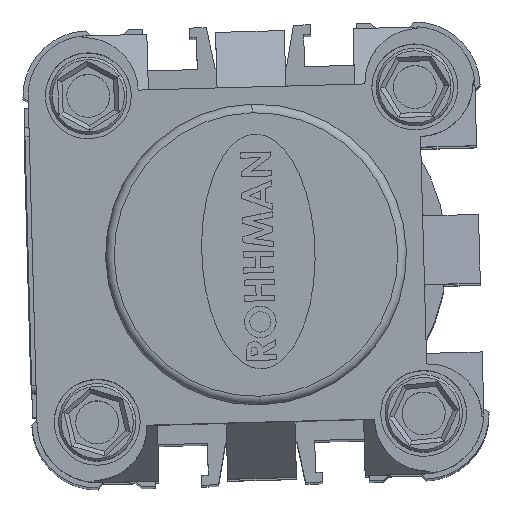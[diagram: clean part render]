
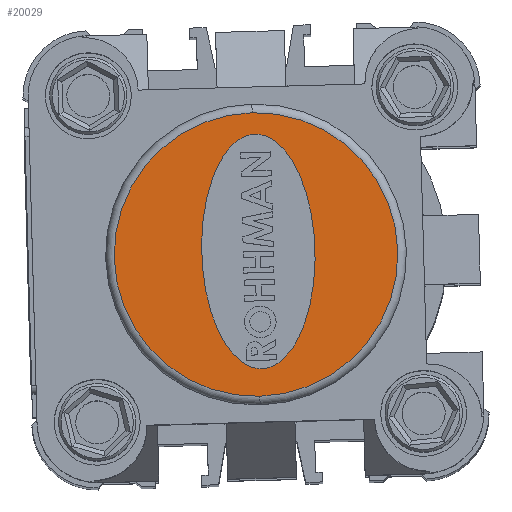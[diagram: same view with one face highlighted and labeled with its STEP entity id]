
A CAD part, top view. The second image highlights one B-rep face of the part: STEP entity #20029.
In plain terms, the highlighted planar face has unit normal (0, 0, 1) as drawn and (0, 0, -1) by its records, which use the part's own axes.
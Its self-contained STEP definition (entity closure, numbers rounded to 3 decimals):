
#99 = DIRECTION ( 'NONE',  ( 0., 0., -1. ) ) ;
#935 = VERTEX_POINT ( 'NONE', #8402 ) ;
#1579 = VERTEX_POINT ( 'NONE', #31861 ) ;
#1590 = FACE_BOUND ( 'NONE', #24347, .T. ) ;
#2034 = ORIENTED_EDGE ( 'NONE', *, *, #30570, .T. ) ;
#2451 = CARTESIAN_POINT ( 'NONE',  ( 39.297, 12.525, -4. ) ) ;
#2734 = CIRCLE ( 'NONE', #10693, 16.5 ) ;
#2842 = EDGE_CURVE ( 'NONE', #19634, #1579, #10938, .T. ) ;
#4099 = DIRECTION ( 'NONE',  ( -1., 0., 0. ) ) ;
#4481 = DIRECTION ( 'NONE',  ( 0., 0., -1. ) ) ;
#5569 = CARTESIAN_POINT ( 'NONE',  ( 26., 26., -4. ) ) ;
#7733 =( BOUNDED_CURVE ( )  B_SPLINE_CURVE ( 3, ( #19075, #11747, #29200, #9126 ),
 .UNSPECIFIED., .F., .F. ) 
 B_SPLINE_CURVE_WITH_KNOTS ( ( 4, 4 ),
 ( 3.142, 6.283 ),
 .UNSPECIFIED. ) 
 CURVE ( )  GEOMETRIC_REPRESENTATION_ITEM ( )  RATIONAL_B_SPLINE_CURVE ( ( 1., 0.333, 0.333, 1. ) ) 
 REPRESENTATION_ITEM ( '' )  );
#8402 = CARTESIAN_POINT ( 'NONE',  ( 39.297, 25.719, -4. ) ) ;
#8603 = FACE_OUTER_BOUND ( 'NONE', #22110, .T. ) ;
#8797 = EDGE_CURVE ( 'NONE', #935, #14542, #21076, .T. ) ;
#9126 = CARTESIAN_POINT ( 'NONE',  ( 39.297, 25.719, -4. ) ) ;
#10542 = AXIS2_PLACEMENT_3D ( 'NONE', #31644, #27006, #4099 ) ;
#10693 = AXIS2_PLACEMENT_3D ( 'NONE', #16923, #4481, #22208 ) ;
#10938 = CIRCLE ( 'NONE', #19447, 16.5 ) ;
#11747 = CARTESIAN_POINT ( 'NONE',  ( 12.017, 38.913, -4. ) ) ;
#13465 = ORIENTED_EDGE ( 'NONE', *, *, #2842, .T. ) ;
#13722 = CARTESIAN_POINT ( 'NONE',  ( 39.297, 25.719, -4. ) ) ;
#14542 = VERTEX_POINT ( 'NONE', #16295 ) ;
#14753 = CARTESIAN_POINT ( 'NONE',  ( 12.017, 12.525, -4. ) ) ;
#16295 = CARTESIAN_POINT ( 'NONE',  ( 12.017, 25.719, -4. ) ) ;
#16880 = PLANE ( 'NONE',  #10542 ) ;
#16898 = ORIENTED_EDGE ( 'NONE', *, *, #32826, .F. ) ;
#16923 = CARTESIAN_POINT ( 'NONE',  ( 26., 26., -4. ) ) ;
#19075 = CARTESIAN_POINT ( 'NONE',  ( 12.017, 25.719, -4. ) ) ;
#19447 = AXIS2_PLACEMENT_3D ( 'NONE', #5569, #99, #22674 ) ;
#19634 = VERTEX_POINT ( 'NONE', #30559 ) ;
#20029 = ADVANCED_FACE ( 'NONE', ( #1590, #8603 ), #16880, .T. ) ;
#20067 = CARTESIAN_POINT ( 'NONE',  ( 12.017, 25.719, -4. ) ) ;
#20570 = ORIENTED_EDGE ( 'NONE', *, *, #8797, .F. ) ;
#21076 =( BOUNDED_CURVE ( )  B_SPLINE_CURVE ( 3, ( #13722, #2451, #14753, #20067 ),
 .UNSPECIFIED., .F., .T. ) 
 B_SPLINE_CURVE_WITH_KNOTS ( ( 4, 4 ),
 ( 0., 3.142 ),
 .UNSPECIFIED. ) 
 CURVE ( )  GEOMETRIC_REPRESENTATION_ITEM ( )  RATIONAL_B_SPLINE_CURVE ( ( 1., 0.333, 0.333, 1. ) ) 
 REPRESENTATION_ITEM ( '' )  );
#22110 = EDGE_LOOP ( 'NONE', ( #2034, #13465 ) ) ;
#22208 = DIRECTION ( 'NONE',  ( -1., 0., 0. ) ) ;
#22674 = DIRECTION ( 'NONE',  ( -1., 0., 0. ) ) ;
#24347 = EDGE_LOOP ( 'NONE', ( #20570, #16898 ) ) ;
#27006 = DIRECTION ( 'NONE',  ( 0., 0., -1. ) ) ;
#29200 = CARTESIAN_POINT ( 'NONE',  ( 39.297, 38.913, -4. ) ) ;
#30559 = CARTESIAN_POINT ( 'NONE',  ( 42.5, 26., -4. ) ) ;
#30570 = EDGE_CURVE ( 'NONE', #1579, #19634, #2734, .T. ) ;
#31644 = CARTESIAN_POINT ( 'NONE',  ( 26., 26., -4. ) ) ;
#31861 = CARTESIAN_POINT ( 'NONE',  ( 9.5, 26., -4. ) ) ;
#32826 = EDGE_CURVE ( 'NONE', #14542, #935, #7733, .T. ) ;
